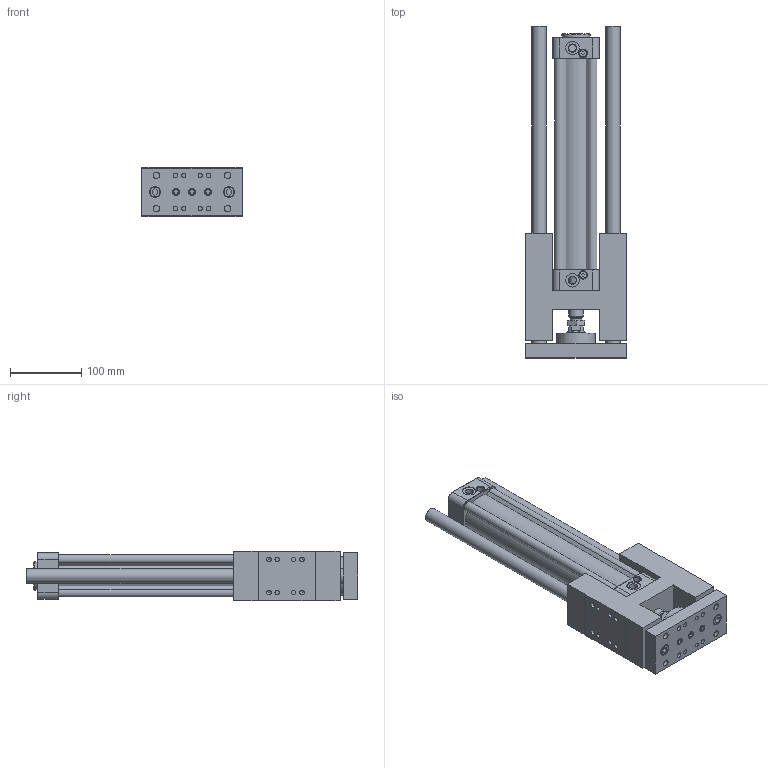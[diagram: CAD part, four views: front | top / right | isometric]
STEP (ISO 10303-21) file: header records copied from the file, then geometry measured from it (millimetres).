
FILE_DESCRIPTION((''),'2;1');
FILE_NAME('I:\3D電子目錄\氣缸\GHB(U)\GHB(U)\GHB(U)50\GHB(U)50x250.stp','2007-10-19T16:41:08',('Administrator'),(''),'Autodesk Inventor 11','Autodesk Inventor 11','');
FILE_SCHEMA(('AUTOMOTIVE_DESIGN { 1 0 10303 214 1 1 1 1 }'));
Length unit declared in the file: millimetre
Products named in the file (1): GHB(U)50
Bounding box: 141 x 466 x 70 mm (x, y, z)
Volume: 1715265.8 mm3; surface area: 383080.7 mm2
Topology: 1 solids, 13 shells, 779 faces, 1736 edges, 1075 vertices
Faces by surface type: plane 299, bspline 222, cylinder 163, cone 88, torus 7
Full cylindrical faces by diameter (mm): 2.5 x2, 6 x8, 6.647 x4, 6.7 x2, 6.75 x4, 7.25 x2, 7.4 x4, 7.5 x2, 8.5 x9, 9 x2, 9.8 x4, 10 x5, 11.5 x1, 11.9 x1, 12 x3, 13 x4, 14 x8, 14.5 x2, 16 x3, 19 x2, 20 x4, 23 x1, 25 x1, 26 x2, 40 x1, 50 x1, 54 x1
Entity records: 22633 total; most frequent: CARTESIAN_POINT 7068, DIRECTION 3100, ORIENTED_EDGE 3020, EDGE_CURVE 1510, AXIS2_PLACEMENT_3D 1202, EDGE_LOOP 1071, VERTEX_POINT 1029, FACE_OUTER_BOUND 778
